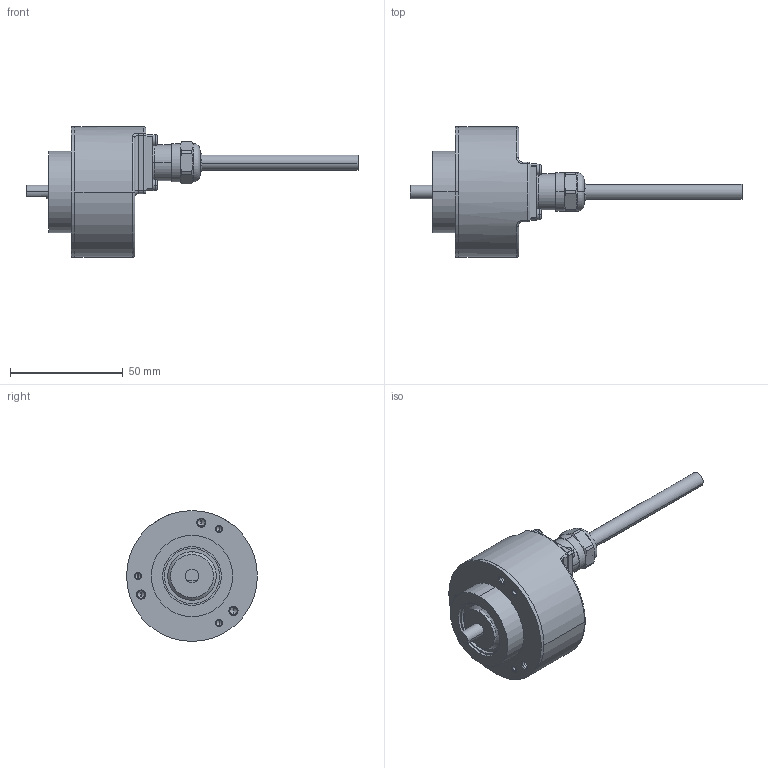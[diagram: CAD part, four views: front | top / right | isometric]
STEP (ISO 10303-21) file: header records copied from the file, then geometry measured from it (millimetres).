
FILE_DESCRIPTION (( 'STEP AP203' ), '1' );
FILE_NAME ('K58I.OXX.XXXXX.XS1C506.6XA31.XXXX.step', '2025-12-08T15:07:09', ( '' ), ( '' ), 'SwSTEP 2.0', 'SolidWorks 2021', '' );
FILE_SCHEMA (( 'CONFIG_CONTROL_DESIGN' ));
Length unit declared in the file: millimetre
Products named in the file (1): K58I.OXX.XXXXX.XS1C506.6XA31.XXXX
Bounding box: 147.19 x 58 x 58 mm (x, y, z)
Volume: 133119.9 mm3; surface area: 33657.6 mm2
Topology: 8 solids, 8 shells, 526 faces, 1291 edges, 798 vertices
Faces by surface type: cylinder 233, plane 136, cone 56, bspline 42, torus 41, sphere 18
Entity records: 17459 total; most frequent: CARTESIAN_POINT 5064, DIRECTION 2670, ORIENTED_EDGE 2558, EDGE_CURVE 1279, AXIS2_PLACEMENT_3D 1070, VERTEX_POINT 798, CIRCLE 585, EDGE_LOOP 567
